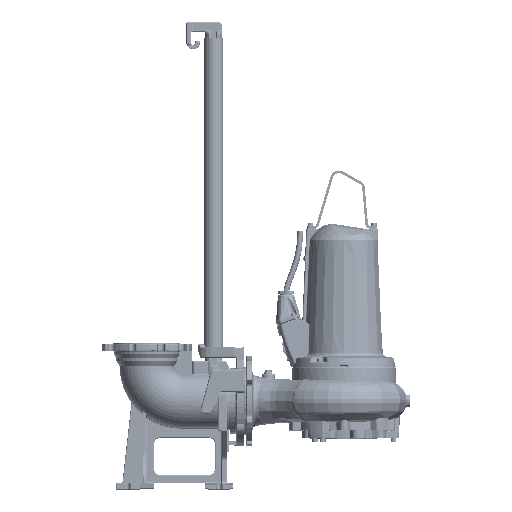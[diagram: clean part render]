
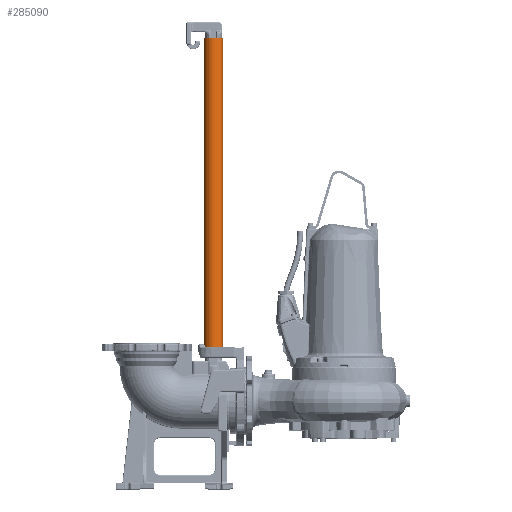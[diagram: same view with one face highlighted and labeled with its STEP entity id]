
A CAD part, top view. The second image highlights one B-rep face of the part: STEP entity #285090.
In plain terms, the highlighted cylindrical face has radius 30.15 mm (diameter 60.3 mm), a partial arc.
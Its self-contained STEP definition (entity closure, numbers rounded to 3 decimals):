
#10268 = CARTESIAN_POINT ( 'NONE',  ( -410.5, -197., 0. ) ) ;
#23591 = CIRCLE ( 'NONE', #327144, 30.15 ) ;
#36521 = EDGE_CURVE ( 'NONE', #407747, #159733, #23591, .T. ) ;
#40969 = DIRECTION ( 'NONE',  ( 0., -1., 0. ) ) ;
#44705 = DIRECTION ( 'NONE',  ( 1., 0., 0.011 ) ) ;
#58368 = EDGE_CURVE ( 'NONE', #159733, #236316, #285448, .T. ) ;
#74216 = CARTESIAN_POINT ( 'NONE',  ( -410.5, 803., 0. ) ) ;
#103018 = VECTOR ( 'NONE', #232549, 1000. ) ;
#108798 = DIRECTION ( 'NONE',  ( 1., 0., 0.011 ) ) ;
#110923 = FACE_OUTER_BOUND ( 'NONE', #398236, .T. ) ;
#125994 = EDGE_CURVE ( 'NONE', #407747, #342343, #152729, .T. ) ;
#141168 = ORIENTED_EDGE ( 'NONE', *, *, #36521, .F. ) ;
#152729 = LINE ( 'NONE', #246516, #415737 ) ;
#159733 = VERTEX_POINT ( 'NONE', #370839 ) ;
#162953 = ORIENTED_EDGE ( 'NONE', *, *, #214652, .T. ) ;
#164336 = CIRCLE ( 'NONE', #441703, 30.15 ) ;
#201990 = CARTESIAN_POINT ( 'NONE',  ( -380.352, -197., 0.341 ) ) ;
#214652 = EDGE_CURVE ( 'NONE', #342343, #236316, #164336, .T. ) ;
#232549 = DIRECTION ( 'NONE',  ( 0., -1., 0. ) ) ;
#236316 = VERTEX_POINT ( 'NONE', #201990 ) ;
#246030 = CARTESIAN_POINT ( 'NONE',  ( -440.648, -197., -0.341 ) ) ;
#246454 = ORIENTED_EDGE ( 'NONE', *, *, #125994, .T. ) ;
#246516 = CARTESIAN_POINT ( 'NONE',  ( -440.648, 803., -0.341 ) ) ;
#250347 = DIRECTION ( 'NONE',  ( 0., 1., 0. ) ) ;
#268492 = CARTESIAN_POINT ( 'NONE',  ( -380.352, 803., 0.341 ) ) ;
#285090 = ADVANCED_FACE ( 'NONE', ( #110923 ), #341760, .T. ) ;
#285448 = LINE ( 'NONE', #268492, #103018 ) ;
#288968 = ORIENTED_EDGE ( 'NONE', *, *, #58368, .F. ) ;
#292042 = DIRECTION ( 'NONE',  ( 0., -1., 0. ) ) ;
#314335 = DIRECTION ( 'NONE',  ( 0., 1., 0. ) ) ;
#327144 = AXIS2_PLACEMENT_3D ( 'NONE', #74216, #314335, #108798 ) ;
#341760 = CYLINDRICAL_SURFACE ( 'NONE', #438541, 30.15 ) ;
#342343 = VERTEX_POINT ( 'NONE', #246030 ) ;
#362677 = DIRECTION ( 'NONE',  ( -1., 0., -0.011 ) ) ;
#370839 = CARTESIAN_POINT ( 'NONE',  ( -380.352, 803., 0.341 ) ) ;
#395666 = CARTESIAN_POINT ( 'NONE',  ( -410.5, 803., 0. ) ) ;
#398236 = EDGE_LOOP ( 'NONE', ( #288968, #141168, #246454, #162953 ) ) ;
#404092 = CARTESIAN_POINT ( 'NONE',  ( -440.648, 803., -0.341 ) ) ;
#407747 = VERTEX_POINT ( 'NONE', #404092 ) ;
#415737 = VECTOR ( 'NONE', #40969, 1000. ) ;
#438541 = AXIS2_PLACEMENT_3D ( 'NONE', #395666, #292042, #362677 ) ;
#441703 = AXIS2_PLACEMENT_3D ( 'NONE', #10268, #250347, #44705 ) ;
